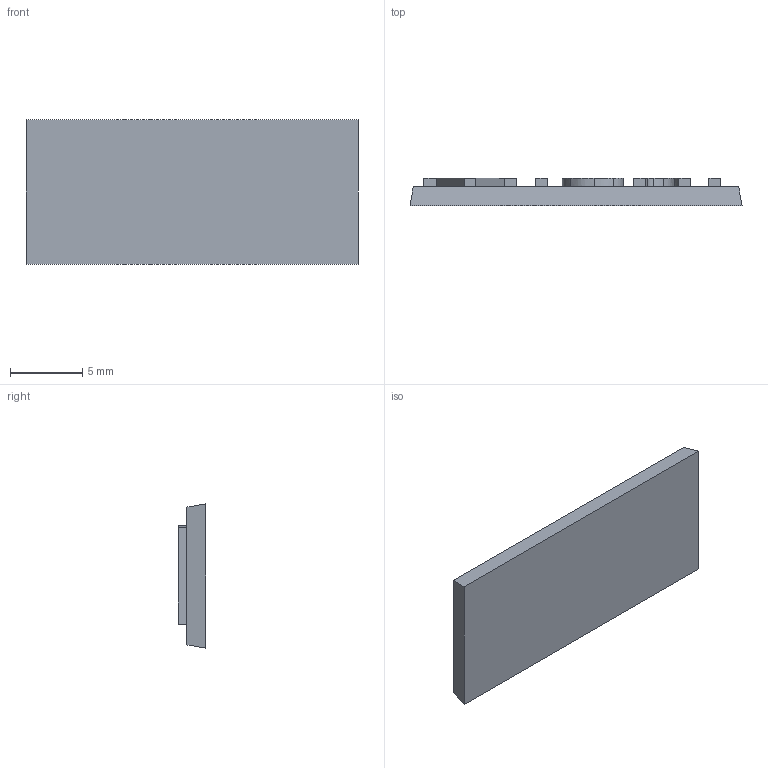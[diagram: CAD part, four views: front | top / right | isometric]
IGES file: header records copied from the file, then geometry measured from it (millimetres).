
Global section: file name: Namensschild v3; native system: unknown; preprocessor: unknown; author: unknown; organization: unknown; date: 20170528.194625; units: millimetre
Bounding box: 23 x 1.9 x 10 mm (x, y, z)
Volume: 319.3 mm3; surface area: 613 mm2
Topology: 1 solids, 1 shells, 80 faces, 213 edges, 142 vertices
Faces by surface type: bspline 80
